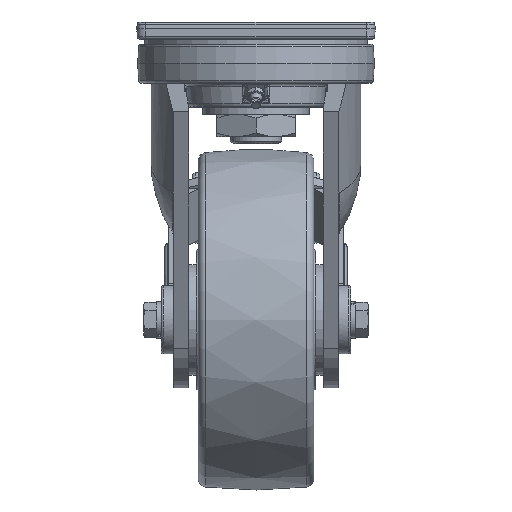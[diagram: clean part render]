
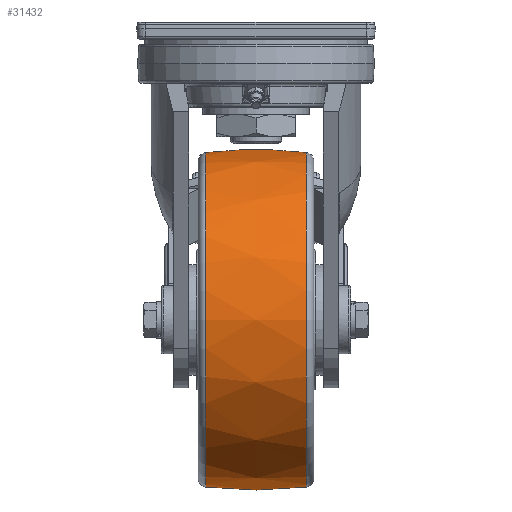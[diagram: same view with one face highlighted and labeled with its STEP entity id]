
A CAD part, front view. The second image highlights one B-rep face of the part: STEP entity #31432.
In plain terms, the highlighted free-form (B-spline) face has degree [2, 2] with [3, 9] control points.
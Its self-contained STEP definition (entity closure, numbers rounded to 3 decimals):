
#24=(
BOUNDED_SURFACE()
B_SPLINE_SURFACE(2,2,((#55673,#55674,#55675,#55676,#55677,#55678,#55679,
#55680,#55681),(#55682,#55683,#55684,#55685,#55686,#55687,#55688,#55689,
#55690),(#55691,#55692,#55693,#55694,#55695,#55696,#55697,#55698,#55699)),
 .UNSPECIFIED.,.F.,.T.,.F.)
B_SPLINE_SURFACE_WITH_KNOTS((3,3),(3,2,2,2,3),(-0.119,0.119),
(-3.142,-1.571,0.,1.571,3.142),
 .UNSPECIFIED.)
GEOMETRIC_REPRESENTATION_ITEM()
RATIONAL_B_SPLINE_SURFACE(((1.,0.707,1.,0.707,1.,
0.707,1.,0.707,1.),(0.993,0.702,
0.993,0.702,0.993,0.702,
0.993,0.702,0.993),(1.,0.707,
1.,0.707,1.,0.707,1.,0.707,1.)))
REPRESENTATION_ITEM('')
SURFACE()
);
#9120=FACE_OUTER_BOUND('',#10981,.T.);
#10981=EDGE_LOOP('',(#26772,#26773,#26774,#26775,#26776,#26777));
#12066=CIRCLE('',#33388,98.242);
#12067=CIRCLE('',#33389,98.242);
#12068=CIRCLE('',#33390,250.);
#12069=CIRCLE('',#33391,98.242);
#12070=CIRCLE('',#33392,98.242);
#14374=VERTEX_POINT('',#55668);
#14375=VERTEX_POINT('',#55670);
#14376=VERTEX_POINT('',#55700);
#14377=VERTEX_POINT('',#55702);
#18660=EDGE_CURVE('',#14374,#14375,#12066,.T.);
#18661=EDGE_CURVE('',#14375,#14374,#12067,.T.);
#18662=EDGE_CURVE('',#14374,#14376,#12068,.T.);
#18663=EDGE_CURVE('',#14376,#14377,#12069,.T.);
#18664=EDGE_CURVE('',#14377,#14376,#12070,.T.);
#26772=ORIENTED_EDGE('',*,*,#18661,.F.);
#26773=ORIENTED_EDGE('',*,*,#18660,.F.);
#26774=ORIENTED_EDGE('',*,*,#18662,.T.);
#26775=ORIENTED_EDGE('',*,*,#18663,.T.);
#26776=ORIENTED_EDGE('',*,*,#18664,.T.);
#26777=ORIENTED_EDGE('',*,*,#18662,.F.);
#31432=ADVANCED_FACE('',(#9120),#24,.F.);
#33388=AXIS2_PLACEMENT_3D('',#55671,#38538,#38539);
#33389=AXIS2_PLACEMENT_3D('',#55672,#38540,#38541);
#33390=AXIS2_PLACEMENT_3D('',#55701,#38542,#38543);
#33391=AXIS2_PLACEMENT_3D('',#55703,#38544,#38545);
#33392=AXIS2_PLACEMENT_3D('',#55704,#38546,#38547);
#38538=DIRECTION('center_axis',(1.,0.,0.));
#38539=DIRECTION('ref_axis',(0.,1.,0.));
#38540=DIRECTION('center_axis',(1.,0.,0.));
#38541=DIRECTION('ref_axis',(0.,1.,0.));
#38542=DIRECTION('center_axis',(0.,-1.,0.));
#38543=DIRECTION('ref_axis',(0.,0.,
1.));
#38544=DIRECTION('center_axis',(1.,0.,0.));
#38545=DIRECTION('ref_axis',(0.,1.,0.));
#38546=DIRECTION('center_axis',(1.,0.,0.));
#38547=DIRECTION('ref_axis',(0.,1.,0.));
#55668=CARTESIAN_POINT('',(29.592,60.,-72.758));
#55670=CARTESIAN_POINT('',(29.592,158.242,-171.));
#55671=CARTESIAN_POINT('Origin',(29.592,60.,-171.));
#55672=CARTESIAN_POINT('Origin',(29.592,60.,-171.));
#55673=CARTESIAN_POINT('Ctrl Pts',(-29.592,60.,-72.758));
#55674=CARTESIAN_POINT('Ctrl Pts',(-29.592,-38.242,
-72.758));
#55675=CARTESIAN_POINT('Ctrl Pts',(-29.592,-38.242,
-171.));
#55676=CARTESIAN_POINT('Ctrl Pts',(-29.592,-38.242,
-269.242));
#55677=CARTESIAN_POINT('Ctrl Pts',(-29.592,60.,-269.242));
#55678=CARTESIAN_POINT('Ctrl Pts',(-29.592,158.242,-269.242));
#55679=CARTESIAN_POINT('Ctrl Pts',(-29.592,158.242,-171.));
#55680=CARTESIAN_POINT('Ctrl Pts',(-29.592,158.242,-72.758));
#55681=CARTESIAN_POINT('Ctrl Pts',(-29.592,60.,-72.758));
#55682=CARTESIAN_POINT('Ctrl Pts',(0.,60.,
-69.23));
#55683=CARTESIAN_POINT('Ctrl Pts',(0.,-41.77,
-69.23));
#55684=CARTESIAN_POINT('Ctrl Pts',(0.,-41.77,
-171.));
#55685=CARTESIAN_POINT('Ctrl Pts',(0.,-41.77,
-272.77));
#55686=CARTESIAN_POINT('Ctrl Pts',(0.,60.,
-272.77));
#55687=CARTESIAN_POINT('Ctrl Pts',(0.,161.77,
-272.77));
#55688=CARTESIAN_POINT('Ctrl Pts',(0.,161.77,
-171.));
#55689=CARTESIAN_POINT('Ctrl Pts',(0.,161.77,
-69.23));
#55690=CARTESIAN_POINT('Ctrl Pts',(0.,60.,
-69.23));
#55691=CARTESIAN_POINT('Ctrl Pts',(29.592,60.,-72.758));
#55692=CARTESIAN_POINT('Ctrl Pts',(29.592,-38.242,-72.758));
#55693=CARTESIAN_POINT('Ctrl Pts',(29.592,-38.242,-171.));
#55694=CARTESIAN_POINT('Ctrl Pts',(29.592,-38.242,-269.242));
#55695=CARTESIAN_POINT('Ctrl Pts',(29.592,60.,-269.242));
#55696=CARTESIAN_POINT('Ctrl Pts',(29.592,158.242,-269.242));
#55697=CARTESIAN_POINT('Ctrl Pts',(29.592,158.242,-171.));
#55698=CARTESIAN_POINT('Ctrl Pts',(29.592,158.242,-72.758));
#55699=CARTESIAN_POINT('Ctrl Pts',(29.592,60.,-72.758));
#55700=CARTESIAN_POINT('',(-29.592,60.,-72.758));
#55701=CARTESIAN_POINT('Origin',(0.,60.,
-321.));
#55702=CARTESIAN_POINT('',(-29.592,158.242,-171.));
#55703=CARTESIAN_POINT('Origin',(-29.592,60.,-171.));
#55704=CARTESIAN_POINT('Origin',(-29.592,60.,-171.));
